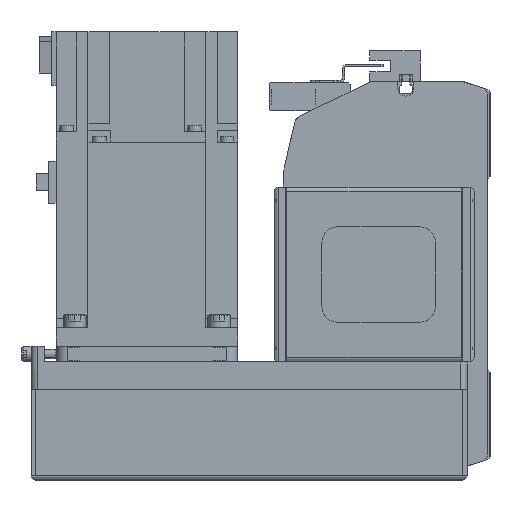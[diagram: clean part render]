
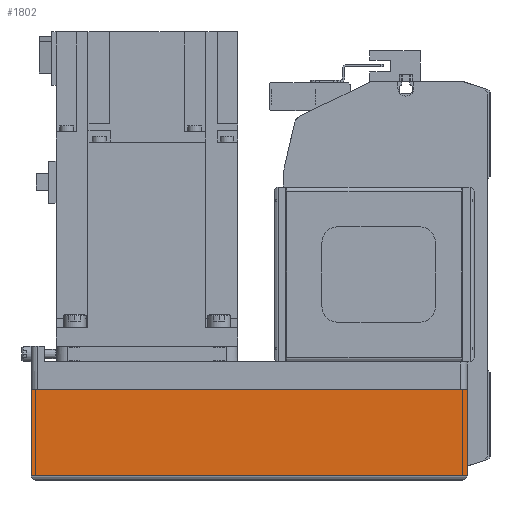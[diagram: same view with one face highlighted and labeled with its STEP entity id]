
A CAD part, left-side view. The second image highlights one B-rep face of the part: STEP entity #1802.
In plain terms, the highlighted planar face has unit normal (-1, 0, 0) as drawn and (0, -1, 0) by its records, which use the part's own axes.
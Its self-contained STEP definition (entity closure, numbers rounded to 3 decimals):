
#1802 = ADVANCED_FACE( '', ( #4359 ), #4360, .T. );
#4359 = FACE_OUTER_BOUND( '', #7853, .T. );
#4360 = PLANE( '', #7854 );
#7853 = EDGE_LOOP( '', ( #13043, #13044, #13045, #13046 ) );
#7854 = AXIS2_PLACEMENT_3D( '', #13047, #13048, #13049 );
#13043 = ORIENTED_EDGE( '', *, *, #21325, .F. );
#13044 = ORIENTED_EDGE( '', *, *, #20688, .F. );
#13045 = ORIENTED_EDGE( '', *, *, #21241, .T. );
#13046 = ORIENTED_EDGE( '', *, *, #21326, .T. );
#13047 = CARTESIAN_POINT( '', ( -192., -40., -12.1 ) );
#13048 = DIRECTION( '', ( 0., -1., 0. ) );
#13049 = DIRECTION( '', ( 0., 0., -1. ) );
#20688 = EDGE_CURVE( '', #25057, #25058, #25059, .T. );
#21241 = EDGE_CURVE( '', #25057, #25966, #25968, .T. );
#21325 = EDGE_CURVE( '', #25058, #24800, #26101, .T. );
#21326 = EDGE_CURVE( '', #25966, #24800, #26102, .T. );
#24800 = VERTEX_POINT( '', #30890 );
#25057 = VERTEX_POINT( '', #31279 );
#25058 = VERTEX_POINT( '', #31280 );
#25059 = LINE( '', #31281, #31282 );
#25966 = VERTEX_POINT( '', #32575 );
#25968 = LINE( '', #32578, #32579 );
#26101 = LINE( '', #32810, #32811 );
#26102 = LINE( '', #32812, #32813 );
#30890 = CARTESIAN_POINT( '', ( 0., -40., -50. ) );
#31279 = CARTESIAN_POINT( '', ( -192., -40., -12.1 ) );
#31280 = CARTESIAN_POINT( '', ( 0., -40., -12.1 ) );
#31281 = CARTESIAN_POINT( '', ( -192., -40., -12.1 ) );
#31282 = VECTOR( '', #38204, 1000. );
#32575 = CARTESIAN_POINT( '', ( -192., -40., -50. ) );
#32578 = CARTESIAN_POINT( '', ( -192., -40., -12.1 ) );
#32579 = VECTOR( '', #38913, 1000. );
#32810 = CARTESIAN_POINT( '', ( 0., -40., -12.1 ) );
#32811 = VECTOR( '', #39011, 1000. );
#32812 = CARTESIAN_POINT( '', ( -192., -40., -50. ) );
#32813 = VECTOR( '', #39012, 1000. );
#38204 = DIRECTION( '', ( 1., 0., 0. ) );
#38913 = DIRECTION( '', ( 0., 0., -1. ) );
#39011 = DIRECTION( '', ( 0., 0., -1. ) );
#39012 = DIRECTION( '', ( 1., 0., 0. ) );
